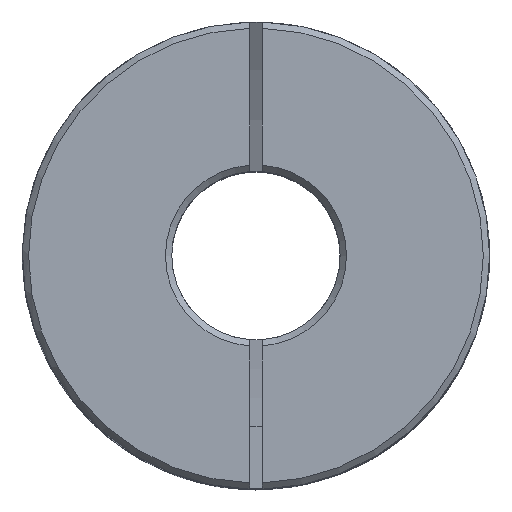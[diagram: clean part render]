
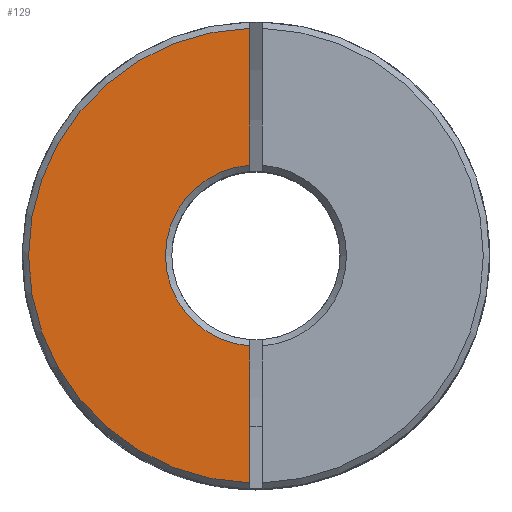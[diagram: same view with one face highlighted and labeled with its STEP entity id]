
A CAD part, top view. The second image highlights one B-rep face of the part: STEP entity #129.
In plain terms, the highlighted planar face has unit normal (0, 0, 1).
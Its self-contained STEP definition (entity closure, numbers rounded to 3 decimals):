
#129 = ADVANCED_FACE( '', ( #279 ), #280, .T. );
#279 = FACE_OUTER_BOUND( '', #435, .T. );
#280 = PLANE( '', #436 );
#435 = EDGE_LOOP( '', ( #858, #859, #860, #861 ) );
#436 = AXIS2_PLACEMENT_3D( '', #862, #863, #864 );
#858 = ORIENTED_EDGE( '', *, *, #939, .T. );
#859 = ORIENTED_EDGE( '', *, *, #982, .T. );
#860 = ORIENTED_EDGE( '', *, *, #920, .T. );
#861 = ORIENTED_EDGE( '', *, *, #999, .T. );
#862 = CARTESIAN_POINT( '', ( -11.1, 0., 10. ) );
#863 = DIRECTION( '', ( 0., 0., 1. ) );
#864 = DIRECTION( '', ( 1., 0., 0. ) );
#920 = EDGE_CURVE( '', #1090, #1091, #1092, .T. );
#939 = EDGE_CURVE( '', #1120, #1118, #1121, .T. );
#982 = EDGE_CURVE( '', #1118, #1090, #1194, .T. );
#999 = EDGE_CURVE( '', #1091, #1120, #1216, .F. );
#1090 = VERTEX_POINT( '', #1652 );
#1091 = VERTEX_POINT( '', #1653 );
#1092 = LINE( '', #1654, #1655 );
#1118 = VERTEX_POINT( '', #1698 );
#1120 = VERTEX_POINT( '', #1703 );
#1121 = LINE( '', #1704, #1705 );
#1194 = CIRCLE( '', #1824, 10.8 );
#1216 = CIRCLE( '', #1863, 4.3 );
#1652 = CARTESIAN_POINT( '', ( -0.3, -10.796, 10. ) );
#1653 = CARTESIAN_POINT( '', ( -0.3, -4.29, 10. ) );
#1654 = CARTESIAN_POINT( '', ( -0.3, -11.1, 10. ) );
#1655 = VECTOR( '', #1941, 1000. );
#1698 = CARTESIAN_POINT( '', ( -0.3, 10.796, 10. ) );
#1703 = CARTESIAN_POINT( '', ( -0.3, 4.29, 10. ) );
#1704 = CARTESIAN_POINT( '', ( -0.3, -11.1, 10. ) );
#1705 = VECTOR( '', #1968, 1000. );
#1824 = AXIS2_PLACEMENT_3D( '', #2036, #2037, #2038 );
#1863 = AXIS2_PLACEMENT_3D( '', #2065, #2066, #2067 );
#1941 = DIRECTION( '', ( 0., 1., 0. ) );
#1968 = DIRECTION( '', ( 0., 1., 0. ) );
#2036 = CARTESIAN_POINT( '', ( 0., 0., 10. ) );
#2037 = DIRECTION( '', ( 0., 0., 1. ) );
#2038 = DIRECTION( '', ( 1., 0., 0. ) );
#2065 = CARTESIAN_POINT( '', ( 0., 0., 10. ) );
#2066 = DIRECTION( '', ( 0., 0., 1. ) );
#2067 = DIRECTION( '', ( 1., 0., 0. ) );
